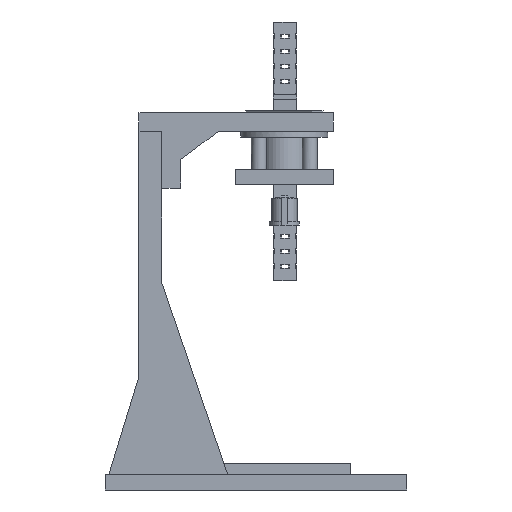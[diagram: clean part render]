
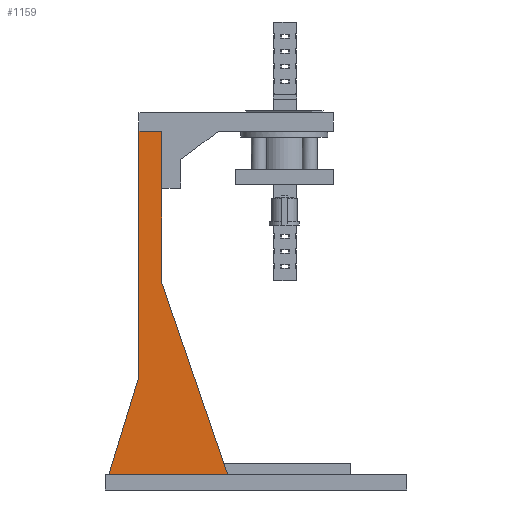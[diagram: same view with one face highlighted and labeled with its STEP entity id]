
A CAD part, left-side view. The second image highlights one B-rep face of the part: STEP entity #1159.
In plain terms, the highlighted planar face has unit normal (-1, 0, 0).
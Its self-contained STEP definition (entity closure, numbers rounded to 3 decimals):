
#216 = PLANE('',#217);
#217 = AXIS2_PLACEMENT_3D('',#218,#219,#220);
#218 = CARTESIAN_POINT('',(0.,0.,8.));
#219 = DIRECTION('',(0.,0.,1.));
#220 = DIRECTION('',(1.,0.,0.));
#470 = VERTEX_POINT('',#471);
#471 = CARTESIAN_POINT('',(45.,95.,8.));
#487 = PLANE('',#488);
#488 = AXIS2_PLACEMENT_3D('',#489,#490,#491);
#489 = CARTESIAN_POINT('',(45.,130.,110.));
#490 = DIRECTION('',(0.,0.946,-0.325));
#491 = DIRECTION('',(0.,-0.325,-0.946));
#499 = EDGE_CURVE('',#470,#500,#502,.T.);
#500 = VERTEX_POINT('',#501);
#501 = CARTESIAN_POINT('',(45.,158.,8.));
#502 = SURFACE_CURVE('',#503,(#507,#514),.PCURVE_S1.);
#503 = LINE('',#504,#505);
#504 = CARTESIAN_POINT('',(45.,95.,8.));
#505 = VECTOR('',#506,1.);
#506 = DIRECTION('',(0.,1.,0.));
#507 = PCURVE('',#216,#508);
#508 = DEFINITIONAL_REPRESENTATION('',(#509),#513);
#509 = LINE('',#510,#511);
#510 = CARTESIAN_POINT('',(45.,95.));
#511 = VECTOR('',#512,1.);
#512 = DIRECTION('',(0.,1.));
#513 = ( GEOMETRIC_REPRESENTATION_CONTEXT(2) 
PARAMETRIC_REPRESENTATION_CONTEXT() REPRESENTATION_CONTEXT('2D SPACE',''
  ) );
#514 = PCURVE('',#515,#520);
#515 = PLANE('',#516);
#516 = AXIS2_PLACEMENT_3D('',#517,#518,#519);
#517 = CARTESIAN_POINT('',(45.,146.601,30.601));
#518 = DIRECTION('',(1.,0.,0.));
#519 = DIRECTION('',(-0.,0.,1.));
#520 = DEFINITIONAL_REPRESENTATION('',(#521),#525);
#521 = LINE('',#522,#523);
#522 = CARTESIAN_POINT('',(-22.601,51.601));
#523 = VECTOR('',#524,1.);
#524 = DIRECTION('',(0.,-1.));
#525 = ( GEOMETRIC_REPRESENTATION_CONTEXT(2) 
PARAMETRIC_REPRESENTATION_CONTEXT() REPRESENTATION_CONTEXT('2D SPACE',''
  ) );
#543 = PLANE('',#544);
#544 = AXIS2_PLACEMENT_3D('',#545,#546,#547);
#545 = CARTESIAN_POINT('',(45.,158.,8.));
#546 = DIRECTION('',(0.,-0.956,-0.294));
#547 = DIRECTION('',(0.,-0.294,0.956));
#599 = PLANE('',#600);
#600 = AXIS2_PLACEMENT_3D('',#601,#602,#603);
#601 = CARTESIAN_POINT('',(45.,142.,8.));
#602 = DIRECTION('',(0.,1.,0.));
#603 = DIRECTION('',(0.,0.,1.));
#767 = PLANE('',#768);
#768 = AXIS2_PLACEMENT_3D('',#769,#770,#771);
#769 = CARTESIAN_POINT('',(45.,130.,8.));
#770 = DIRECTION('',(0.,1.,0.));
#771 = DIRECTION('',(0.,0.,1.));
#1093 = VERTEX_POINT('',#1094);
#1094 = CARTESIAN_POINT('',(45.,130.,110.));
#1139 = EDGE_CURVE('',#1093,#470,#1140,.T.);
#1140 = SURFACE_CURVE('',#1141,(#1145,#1152),.PCURVE_S1.);
#1141 = LINE('',#1142,#1143);
#1142 = CARTESIAN_POINT('',(45.,130.,110.));
#1143 = VECTOR('',#1144,1.);
#1144 = DIRECTION('',(0.,-0.325,-0.946));
#1145 = PCURVE('',#487,#1146);
#1146 = DEFINITIONAL_REPRESENTATION('',(#1147),#1151);
#1147 = LINE('',#1148,#1149);
#1148 = CARTESIAN_POINT('',(0.,0.));
#1149 = VECTOR('',#1150,1.);
#1150 = DIRECTION('',(1.,0.));
#1151 = ( GEOMETRIC_REPRESENTATION_CONTEXT(2) 
PARAMETRIC_REPRESENTATION_CONTEXT() REPRESENTATION_CONTEXT('2D SPACE',''
  ) );
#1152 = PCURVE('',#515,#1153);
#1153 = DEFINITIONAL_REPRESENTATION('',(#1154),#1158);
#1154 = LINE('',#1155,#1156);
#1155 = CARTESIAN_POINT('',(79.399,16.601));
#1156 = VECTOR('',#1157,1.);
#1157 = DIRECTION('',(-0.946,0.325));
#1158 = ( GEOMETRIC_REPRESENTATION_CONTEXT(2) 
PARAMETRIC_REPRESENTATION_CONTEXT() REPRESENTATION_CONTEXT('2D SPACE',''
  ) );
#1159 = ADVANCED_FACE('',(#1160),#515,.F.);
#1160 = FACE_BOUND('',#1161,.F.);
#1161 = EDGE_LOOP('',(#1162,#1185,#1208,#1236,#1257,#1258));
#1162 = ORIENTED_EDGE('',*,*,#1163,.T.);
#1163 = EDGE_CURVE('',#500,#1164,#1166,.T.);
#1164 = VERTEX_POINT('',#1165);
#1165 = CARTESIAN_POINT('',(45.,142.,60.));
#1166 = SURFACE_CURVE('',#1167,(#1171,#1178),.PCURVE_S1.);
#1167 = LINE('',#1168,#1169);
#1168 = CARTESIAN_POINT('',(45.,158.,8.));
#1169 = VECTOR('',#1170,1.);
#1170 = DIRECTION('',(0.,-0.294,0.956));
#1171 = PCURVE('',#515,#1172);
#1172 = DEFINITIONAL_REPRESENTATION('',(#1173),#1177);
#1173 = LINE('',#1174,#1175);
#1174 = CARTESIAN_POINT('',(-22.601,-11.399));
#1175 = VECTOR('',#1176,1.);
#1176 = DIRECTION('',(0.956,0.294));
#1177 = ( GEOMETRIC_REPRESENTATION_CONTEXT(2) 
PARAMETRIC_REPRESENTATION_CONTEXT() REPRESENTATION_CONTEXT('2D SPACE',''
  ) );
#1178 = PCURVE('',#543,#1179);
#1179 = DEFINITIONAL_REPRESENTATION('',(#1180),#1184);
#1180 = LINE('',#1181,#1182);
#1181 = CARTESIAN_POINT('',(0.,0.));
#1182 = VECTOR('',#1183,1.);
#1183 = DIRECTION('',(1.,0.));
#1184 = ( GEOMETRIC_REPRESENTATION_CONTEXT(2) 
PARAMETRIC_REPRESENTATION_CONTEXT() REPRESENTATION_CONTEXT('2D SPACE',''
  ) );
#1185 = ORIENTED_EDGE('',*,*,#1186,.T.);
#1186 = EDGE_CURVE('',#1164,#1187,#1189,.T.);
#1187 = VERTEX_POINT('',#1188);
#1188 = CARTESIAN_POINT('',(45.,142.,190.));
#1189 = SURFACE_CURVE('',#1190,(#1194,#1201),.PCURVE_S1.);
#1190 = LINE('',#1191,#1192);
#1191 = CARTESIAN_POINT('',(45.,142.,8.));
#1192 = VECTOR('',#1193,1.);
#1193 = DIRECTION('',(0.,0.,1.));
#1194 = PCURVE('',#515,#1195);
#1195 = DEFINITIONAL_REPRESENTATION('',(#1196),#1200);
#1196 = LINE('',#1197,#1198);
#1197 = CARTESIAN_POINT('',(-22.601,4.601));
#1198 = VECTOR('',#1199,1.);
#1199 = DIRECTION('',(1.,0.));
#1200 = ( GEOMETRIC_REPRESENTATION_CONTEXT(2) 
PARAMETRIC_REPRESENTATION_CONTEXT() REPRESENTATION_CONTEXT('2D SPACE',''
  ) );
#1201 = PCURVE('',#599,#1202);
#1202 = DEFINITIONAL_REPRESENTATION('',(#1203),#1207);
#1203 = LINE('',#1204,#1205);
#1204 = CARTESIAN_POINT('',(0.,0.));
#1205 = VECTOR('',#1206,1.);
#1206 = DIRECTION('',(1.,0.));
#1207 = ( GEOMETRIC_REPRESENTATION_CONTEXT(2) 
PARAMETRIC_REPRESENTATION_CONTEXT() REPRESENTATION_CONTEXT('2D SPACE',''
  ) );
#1208 = ORIENTED_EDGE('',*,*,#1209,.F.);
#1209 = EDGE_CURVE('',#1210,#1187,#1212,.T.);
#1210 = VERTEX_POINT('',#1211);
#1211 = CARTESIAN_POINT('',(45.,130.,190.));
#1212 = SURFACE_CURVE('',#1213,(#1217,#1224),.PCURVE_S1.);
#1213 = LINE('',#1214,#1215);
#1214 = CARTESIAN_POINT('',(45.,130.,190.));
#1215 = VECTOR('',#1216,1.);
#1216 = DIRECTION('',(0.,1.,0.));
#1217 = PCURVE('',#515,#1218);
#1218 = DEFINITIONAL_REPRESENTATION('',(#1219),#1223);
#1219 = LINE('',#1220,#1221);
#1220 = CARTESIAN_POINT('',(159.399,16.601));
#1221 = VECTOR('',#1222,1.);
#1222 = DIRECTION('',(0.,-1.));
#1223 = ( GEOMETRIC_REPRESENTATION_CONTEXT(2) 
PARAMETRIC_REPRESENTATION_CONTEXT() REPRESENTATION_CONTEXT('2D SPACE',''
  ) );
#1224 = PCURVE('',#1225,#1230);
#1225 = PLANE('',#1226);
#1226 = AXIS2_PLACEMENT_3D('',#1227,#1228,#1229);
#1227 = CARTESIAN_POINT('',(45.,130.,190.));
#1228 = DIRECTION('',(0.,0.,1.));
#1229 = DIRECTION('',(1.,0.,0.));
#1230 = DEFINITIONAL_REPRESENTATION('',(#1231),#1235);
#1231 = LINE('',#1232,#1233);
#1232 = CARTESIAN_POINT('',(0.,0.));
#1233 = VECTOR('',#1234,1.);
#1234 = DIRECTION('',(0.,1.));
#1235 = ( GEOMETRIC_REPRESENTATION_CONTEXT(2) 
PARAMETRIC_REPRESENTATION_CONTEXT() REPRESENTATION_CONTEXT('2D SPACE',''
  ) );
#1236 = ORIENTED_EDGE('',*,*,#1237,.F.);
#1237 = EDGE_CURVE('',#1093,#1210,#1238,.T.);
#1238 = SURFACE_CURVE('',#1239,(#1243,#1250),.PCURVE_S1.);
#1239 = LINE('',#1240,#1241);
#1240 = CARTESIAN_POINT('',(45.,130.,8.));
#1241 = VECTOR('',#1242,1.);
#1242 = DIRECTION('',(0.,0.,1.));
#1243 = PCURVE('',#515,#1244);
#1244 = DEFINITIONAL_REPRESENTATION('',(#1245),#1249);
#1245 = LINE('',#1246,#1247);
#1246 = CARTESIAN_POINT('',(-22.601,16.601));
#1247 = VECTOR('',#1248,1.);
#1248 = DIRECTION('',(1.,0.));
#1249 = ( GEOMETRIC_REPRESENTATION_CONTEXT(2) 
PARAMETRIC_REPRESENTATION_CONTEXT() REPRESENTATION_CONTEXT('2D SPACE',''
  ) );
#1250 = PCURVE('',#767,#1251);
#1251 = DEFINITIONAL_REPRESENTATION('',(#1252),#1256);
#1252 = LINE('',#1253,#1254);
#1253 = CARTESIAN_POINT('',(0.,0.));
#1254 = VECTOR('',#1255,1.);
#1255 = DIRECTION('',(1.,0.));
#1256 = ( GEOMETRIC_REPRESENTATION_CONTEXT(2) 
PARAMETRIC_REPRESENTATION_CONTEXT() REPRESENTATION_CONTEXT('2D SPACE',''
  ) );
#1257 = ORIENTED_EDGE('',*,*,#1139,.T.);
#1258 = ORIENTED_EDGE('',*,*,#499,.T.);
